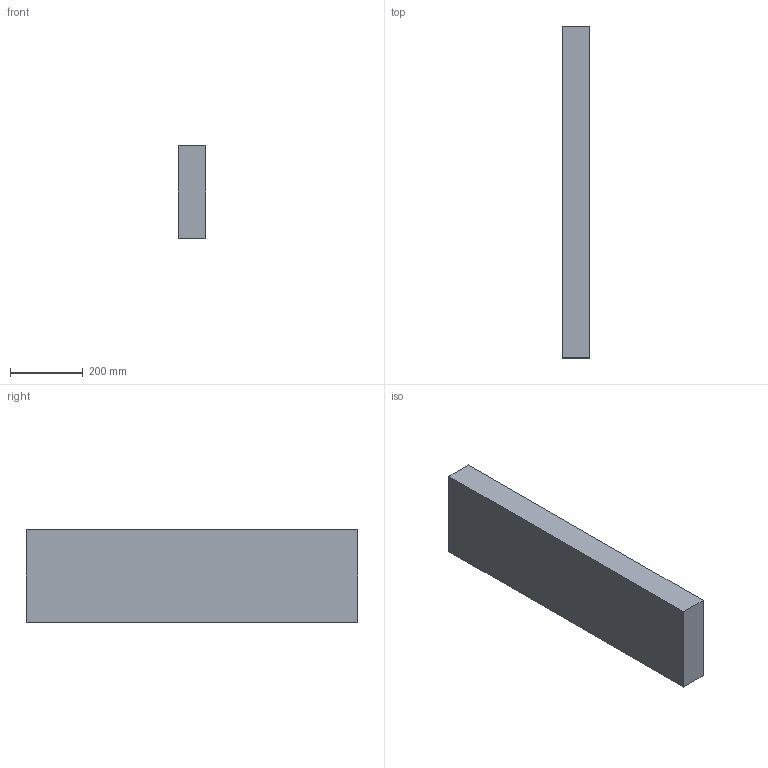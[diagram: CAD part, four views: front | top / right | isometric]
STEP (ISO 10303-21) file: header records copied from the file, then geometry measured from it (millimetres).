
FILE_DESCRIPTION(/* description */ (''),/* implementation_level */ '2;1');
FILE_NAME(/* name */ '3x10x36',/* time_stamp */ '2024-09-20T11:43:27-05:00',/* author */ (''),/* organization */ (''),/* preprocessor_version */ 'ST-DEVELOPER v19.2',/* originating_system */ 'Rhino 8.5',/* authorisation */ '');
FILE_SCHEMA (('CONFIG_CONTROL_DESIGN'));
Length unit declared in the file: inch
Products named in the file (1): Document
Bounding box: 76.2 x 914.4 x 254 mm (x, y, z)
Volume: 17698029.1 mm3; surface area: 642579.4 mm2
Topology: 1 solids, 1 shells, 6 faces, 12 edges, 8 vertices
Faces by surface type: plane 6
Entity records: 226 total; most frequent: CARTESIAN_POINT 40, ORIENTED_EDGE 24, EDGE_CURVE 12, B_SPLINE_CURVE_WITH_KNOTS 12, DIRECTION 10, VERTEX_POINT 8, AXIS2_PLACEMENT_3D 8, ORGANIZATION 7
